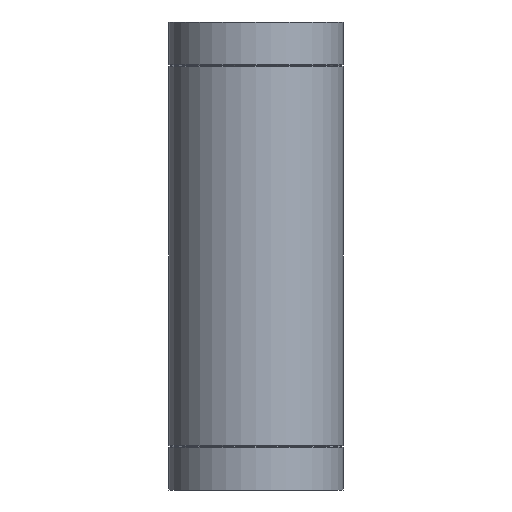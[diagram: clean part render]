
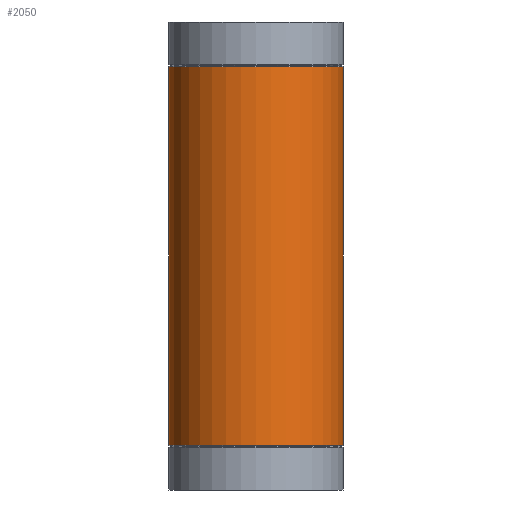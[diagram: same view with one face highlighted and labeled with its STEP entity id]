
A CAD part, front view. The second image highlights one B-rep face of the part: STEP entity #2050.
In plain terms, the highlighted cylindrical face has radius 80 mm (diameter 160 mm), a full revolution.
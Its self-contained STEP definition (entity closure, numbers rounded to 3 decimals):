
#39=FACE_BOUND($,#329,.T.);
#40=FACE_BOUND($,#330,.T.);
#77=B_SPLINE_CURVE_WITH_KNOTS($,3,(#3116,#3117,#3118,#3119,#3120,#3121,
#3122,#3123,#3124,#3125,#3126,#3127,#3128,#3129,#3130,#3131,#3132,#3133,
#3134,#3135,#3136,#3137,#3138,#3139,#3140,#3141,#3142,#3143,#3144,#3145,
#3146,#3147,#3148,#3149),.UNSPECIFIED.,.F.,.F.,(4,2,2,2,2,2,2,2,2,2,2,2,
2,2,2,2,4),(0.,1.136,2.272,3.409,4.545,
5.663,6.782,7.9,9.018,10.137,
11.255,12.374,13.492,14.628,15.764,
16.901,18.037),.UNSPECIFIED.);
#78=B_SPLINE_CURVE_WITH_KNOTS($,3,(#3158,#3159,#3160,#3161,#3162,#3163,
#3164,#3165,#3166,#3167,#3168,#3169,#3170,#3171,#3172,#3173,#3174,#3175,
#3176,#3177,#3178,#3179,#3180,#3181,#3182,#3183,#3184,#3185,#3186,#3187,
#3188,#3189,#3190,#3191),.UNSPECIFIED.,.F.,.F.,(4,2,2,2,2,2,2,2,2,2,2,2,
2,2,2,2,4),(0.,1.136,2.272,3.409,4.545,
5.663,6.782,7.9,9.018,10.137,
11.255,12.374,13.492,14.628,15.764,
16.901,18.037),.UNSPECIFIED.);
#96=CYLINDRICAL_SURFACE($,#2190,80.);
#213=FACE_OUTER_BOUND($,#328,.T.);
#328=EDGE_LOOP($,(#1472));
#329=EDGE_LOOP($,(#1473));
#330=EDGE_LOOP($,(#1474,#1475,#1476,#1477));
#471=CIRCLE($,#2181,80.);
#476=CIRCLE($,#2191,80.);
#580=LINE($,#3155,#764);
#581=LINE($,#3157,#765);
#764=VECTOR($,#2459,100.);
#765=VECTOR($,#2460,100.);
#946=VERTEX_POINT($,#3095);
#953=VERTEX_POINT($,#3113);
#954=VERTEX_POINT($,#3115);
#955=VERTEX_POINT($,#3152);
#956=VERTEX_POINT($,#3154);
#957=VERTEX_POINT($,#3156);
#1150=EDGE_CURVE($,#946,#946,#471,.T.);
#1158=EDGE_CURVE($,#954,#953,#77,.T.);
#1160=EDGE_CURVE($,#955,#955,#476,.T.);
#1161=EDGE_CURVE($,#956,#954,#580,.T.);
#1162=EDGE_CURVE($,#953,#957,#581,.T.);
#1163=EDGE_CURVE($,#957,#956,#78,.T.);
#1472=ORIENTED_EDGE($,*,*,#1150,.T.);
#1473=ORIENTED_EDGE($,*,*,#1160,.T.);
#1474=ORIENTED_EDGE($,*,*,#1161,.T.);
#1475=ORIENTED_EDGE($,*,*,#1158,.T.);
#1476=ORIENTED_EDGE($,*,*,#1162,.T.);
#1477=ORIENTED_EDGE($,*,*,#1163,.T.);
#2050=ADVANCED_FACE($,(#213,#39,#40),#96,.T.);
#2181=AXIS2_PLACEMENT_3D($,#3096,#2433,#2434);
#2190=AXIS2_PLACEMENT_3D($,#3151,#2455,#2456);
#2191=AXIS2_PLACEMENT_3D($,#3153,#2457,#2458);
#2433=DIRECTION('center_axis',(0.,0.,1.));
#2434=DIRECTION('ref_axis',(-1.,0.,0.));
#2455=DIRECTION('center_axis',(0.,0.,1.));
#2456=DIRECTION('ref_axis',(-1.,0.,0.));
#2457=DIRECTION('center_axis',(0.,0.,-1.));
#2458=DIRECTION('ref_axis',(-1.,0.,0.));
#2459=DIRECTION($,(0.,0.,-1.));
#2460=DIRECTION($,(0.,0.,1.));
#3095=CARTESIAN_POINT('',(80.,0.,-174.076));
#3096=CARTESIAN_POINT('Origin',(0.,0.,-174.076));
#3113=CARTESIAN_POINT('',(57.,56.134,-50.));
#3115=CARTESIAN_POINT('',(-57.,56.134,-50.));
#3116=CARTESIAN_POINT('Ctrl Pts',(-57.,56.134,-50.));
#3117=CARTESIAN_POINT('Ctrl Pts',(-57.,56.134,-53.787));
#3118=CARTESIAN_POINT('Ctrl Pts',(-56.618,56.529,-57.613));
#3119=CARTESIAN_POINT('Ctrl Pts',(-55.099,58.011,-65.088));
#3120=CARTESIAN_POINT('Ctrl Pts',(-53.963,59.091,-68.739));
#3121=CARTESIAN_POINT('Ctrl Pts',(-51.03,61.642,-75.674));
#3122=CARTESIAN_POINT('Ctrl Pts',(-49.23,63.111,-78.964));
#3123=CARTESIAN_POINT('Ctrl Pts',(-45.106,66.121,-85.042));
#3124=CARTESIAN_POINT('Ctrl Pts',(-42.781,67.661,-87.829));
#3125=CARTESIAN_POINT('Ctrl Pts',(-37.868,70.526,-92.742));
#3126=CARTESIAN_POINT('Ctrl Pts',(-35.103,71.964,-95.059));
#3127=CARTESIAN_POINT('Ctrl Pts',(-29.024,74.623,-99.195));
#3128=CARTESIAN_POINT('Ctrl Pts',(-25.711,75.843,-101.013));
#3129=CARTESIAN_POINT('Ctrl Pts',(-18.721,77.864,-103.972));
#3130=CARTESIAN_POINT('Ctrl Pts',(-15.036,78.665,-105.114));
#3131=CARTESIAN_POINT('Ctrl Pts',(-7.54,79.734,-106.628));
#3132=CARTESIAN_POINT('Ctrl Pts',(-3.728,80.,-107.));
#3133=CARTESIAN_POINT('Ctrl Pts',(3.728,80.,-107.));
#3134=CARTESIAN_POINT('Ctrl Pts',(7.54,79.734,-106.628));
#3135=CARTESIAN_POINT('Ctrl Pts',(15.036,78.665,-105.114));
#3136=CARTESIAN_POINT('Ctrl Pts',(18.721,77.864,-103.972));
#3137=CARTESIAN_POINT('Ctrl Pts',(25.711,75.843,-101.013));
#3138=CARTESIAN_POINT('Ctrl Pts',(29.024,74.623,-99.195));
#3139=CARTESIAN_POINT('Ctrl Pts',(35.103,71.964,-95.059));
#3140=CARTESIAN_POINT('Ctrl Pts',(37.868,70.526,-92.742));
#3141=CARTESIAN_POINT('Ctrl Pts',(42.781,67.661,-87.829));
#3142=CARTESIAN_POINT('Ctrl Pts',(45.106,66.121,-85.042));
#3143=CARTESIAN_POINT('Ctrl Pts',(49.23,63.111,-78.964));
#3144=CARTESIAN_POINT('Ctrl Pts',(51.03,61.642,-75.674));
#3145=CARTESIAN_POINT('Ctrl Pts',(53.963,59.091,-68.739));
#3146=CARTESIAN_POINT('Ctrl Pts',(55.099,58.011,-65.088));
#3147=CARTESIAN_POINT('Ctrl Pts',(56.618,56.529,-57.613));
#3148=CARTESIAN_POINT('Ctrl Pts',(57.,56.134,-53.787));
#3149=CARTESIAN_POINT('Ctrl Pts',(57.,56.134,-50.));
#3151=CARTESIAN_POINT('Origin',(0.,0.,0.));
#3152=CARTESIAN_POINT('',(80.,0.,174.076));
#3153=CARTESIAN_POINT('Origin',(0.,0.,174.076));
#3154=CARTESIAN_POINT('',(-57.,56.134,50.));
#3155=CARTESIAN_POINT($,(-57.,56.134,0.));
#3156=CARTESIAN_POINT('',(57.,56.134,50.));
#3157=CARTESIAN_POINT($,(57.,56.134,0.));
#3158=CARTESIAN_POINT('Ctrl Pts',(57.,56.134,50.));
#3159=CARTESIAN_POINT('Ctrl Pts',(57.,56.134,53.787));
#3160=CARTESIAN_POINT('Ctrl Pts',(56.618,56.529,57.613));
#3161=CARTESIAN_POINT('Ctrl Pts',(55.099,58.011,65.088));
#3162=CARTESIAN_POINT('Ctrl Pts',(53.963,59.091,68.739));
#3163=CARTESIAN_POINT('Ctrl Pts',(51.03,61.642,75.674));
#3164=CARTESIAN_POINT('Ctrl Pts',(49.23,63.111,78.964));
#3165=CARTESIAN_POINT('Ctrl Pts',(45.106,66.121,85.042));
#3166=CARTESIAN_POINT('Ctrl Pts',(42.781,67.661,87.829));
#3167=CARTESIAN_POINT('Ctrl Pts',(37.868,70.526,92.742));
#3168=CARTESIAN_POINT('Ctrl Pts',(35.103,71.964,95.059));
#3169=CARTESIAN_POINT('Ctrl Pts',(29.024,74.623,99.195));
#3170=CARTESIAN_POINT('Ctrl Pts',(25.711,75.843,101.013));
#3171=CARTESIAN_POINT('Ctrl Pts',(18.721,77.864,103.972));
#3172=CARTESIAN_POINT('Ctrl Pts',(15.036,78.665,105.114));
#3173=CARTESIAN_POINT('Ctrl Pts',(7.54,79.734,106.628));
#3174=CARTESIAN_POINT('Ctrl Pts',(3.728,80.,107.));
#3175=CARTESIAN_POINT('Ctrl Pts',(-3.728,80.,107.));
#3176=CARTESIAN_POINT('Ctrl Pts',(-7.54,79.734,106.628));
#3177=CARTESIAN_POINT('Ctrl Pts',(-15.036,78.665,105.114));
#3178=CARTESIAN_POINT('Ctrl Pts',(-18.721,77.864,103.972));
#3179=CARTESIAN_POINT('Ctrl Pts',(-25.711,75.843,101.013));
#3180=CARTESIAN_POINT('Ctrl Pts',(-29.024,74.623,99.195));
#3181=CARTESIAN_POINT('Ctrl Pts',(-35.103,71.964,95.059));
#3182=CARTESIAN_POINT('Ctrl Pts',(-37.868,70.526,92.742));
#3183=CARTESIAN_POINT('Ctrl Pts',(-42.781,67.661,87.829));
#3184=CARTESIAN_POINT('Ctrl Pts',(-45.106,66.121,85.042));
#3185=CARTESIAN_POINT('Ctrl Pts',(-49.23,63.111,78.964));
#3186=CARTESIAN_POINT('Ctrl Pts',(-51.03,61.642,75.674));
#3187=CARTESIAN_POINT('Ctrl Pts',(-53.963,59.091,68.739));
#3188=CARTESIAN_POINT('Ctrl Pts',(-55.099,58.011,65.088));
#3189=CARTESIAN_POINT('Ctrl Pts',(-56.618,56.529,57.613));
#3190=CARTESIAN_POINT('Ctrl Pts',(-57.,56.134,53.787));
#3191=CARTESIAN_POINT('Ctrl Pts',(-57.,56.134,50.));
